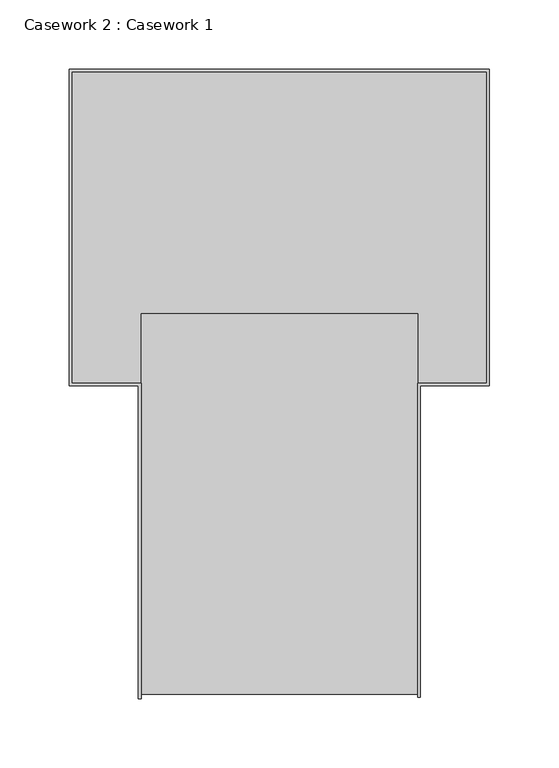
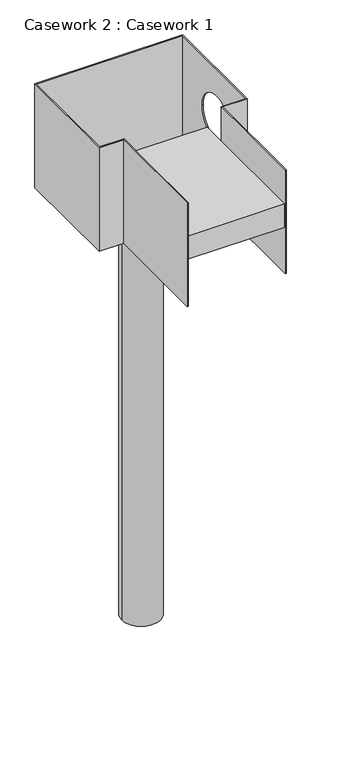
"""IFC4 building model written with IfcOpenShell, lengths in millimetres: furniture geometry, Casework 2 : Casework 1."""

from ifc_helpers import new_model, si_unit, point, frame, frame_2d, origin, place, context, project, spatial, polyline, circle_curve, trimmed, segment, composite_curve, outline, extrude, source, transform, mapped, element, save
from ifc_brep_helpers import plane_surface, revolved_surface, advanced_brep


def casework_2_casework_1_acfe7227(model_context):
    return source(origin(), model_context, "Body", "SolidModel", [
        extrude(outline(polyline([(10485.7899629, -26866.1383926), (10485.7899629, -26591.229083), (10685.7899629, -26591.229083), (10685.7899629, -26866.1383926), (10485.7899629, -26866.1383926)])), frame((0.0, 0.0, 2686.5732141), z_axis=(0.0, 0.0, 1.0), x_axis=(1.0, 0.0, 0.0)), (0.0, 0.0, 1.0), 50.0),
        advanced_brep(
        [(10435.7899629, -26416.229083, 2811.5732141), (10735.7899629, -26416.229083, 2811.5732141), (10735.7899629, -26641.229083, 2811.5732141), (10685.7899629, -26641.229083, 2811.5732141), (10685.7899629, -26722.491931, 2811.5732141), (10685.7899629, -26868.4967336, 2811.5732141), (10687.7899629, -26868.4967336, 2811.5732141), (10687.7899629, -26643.229083, 2811.5732141), (10737.7899629, -26643.229083, 2811.5732141), (10737.7899629, -26414.229083, 2811.5732141), (10433.7899629, -26414.229083, 2811.5732141), (10433.7899629, -26643.229083, 2811.5732141), (10483.7899629, -26643.229083, 2811.5732141), (10483.7899629, -26869.44007, 2811.5732141), (10485.7899629, -26869.44007, 2811.5732141), (10485.7899629, -26722.491931, 2811.5732141), (10485.7899629, -26641.229083, 2811.5732141), (10435.7899629, -26641.229083, 2811.5732141), (10435.7899629, -26416.229083, 2586.5732141), (10435.7899629, -26641.229083, 2586.5732141), (10485.7899629, -26641.229083, 2586.5732141), (10485.7899629, -26869.44007, 2586.5732141), (10483.7899629, -26869.44007, 2586.5732141), (10483.7899629, -26643.229083, 2586.5732141), (10433.7899629, -26643.229083, 2586.5732141), (10433.7899629, -26414.229083, 2586.5732141), (10737.7899629, -26414.229083, 2586.5732141), (10737.7899629, -26643.229083, 2586.5732141), (10687.7899629, -26643.229083, 2586.5732141), (10687.7899629, -26868.4967336, 2586.5732141), (10685.7899629, -26868.4967336, 2586.5732141), (10685.7899629, -26641.229083, 2586.5732141), (10735.7899629, -26641.229083, 2586.5732141), (10735.7899629, -26416.229083, 2586.5732141), (10735.7899629, -26486.1510431, 2703.5791378), (10735.7899629, -26586.1510431, 2703.5791378), (10685.7899629, -26641.229083, 2591.5732141), (10485.7899629, -26641.229083, 2591.5732141), (10485.7899629, -26641.229083, 2686.5732141), (10685.7899629, -26641.229083, 2686.5732141), (10685.7899629, -26658.2535036, 2686.5732141), (10685.7899629, -26658.2535036, 2591.5732141), (10737.7899629, -26586.1510431, 2703.5791378), (10737.7899629, -26486.1510431, 2703.5791378), (10485.7899629, -26658.2535036, 2591.5732141), (10485.7899629, -26658.2535036, 2686.5732141)],
        [
            (0, 1),
            (1, 2),
            (2, 3),
            (3, 4),
            (4, 5),
            (5, 6),
            (6, 7),
            (7, 8),
            (8, 9),
            (9, 10),
            (10, 11),
            (11, 12),
            (12, 13),
            (13, 14),
            (14, 15),
            (15, 16),
            (16, 17),
            (17, 0),
            (18, 19),
            (19, 20),
            (20, 21),
            (21, 22),
            (22, 23),
            (23, 24),
            (24, 25),
            (25, 26),
            (26, 27),
            (27, 28),
            (28, 29),
            (29, 30),
            (30, 31),
            (31, 32),
            (32, 33),
            (33, 18),
            (0, 18),
            (33, 1),
            (32, 2),
            (34, 35, circle_curve(frame((10735.7899629, -26536.1510431, 2703.5791378), z_axis=(1.0, 0.0, 0.0), x_axis=(0.0, 1.0, 0.0)), 50.0)),
            (35, 34, circle_curve(frame((10735.7899629, -26536.1510431, 2703.5791378), z_axis=(1.0, 0.0, 0.0), x_axis=(0.0, 1.0, 0.0)), 50.0)),
            (31, 36),
            (36, 37),
            (37, 20),
            (19, 17),
            (16, 38),
            (38, 39),
            (39, 3),
            (30, 5),
            (39, 40),
            (40, 41),
            (41, 36),
            (7, 28),
            (27, 8),
            (26, 9),
            (42, 43, circle_curve(frame((10737.7899629, -26536.1510431, 2703.5791378), z_axis=(-1.0, 0.0, 0.0), x_axis=(0.0, 1.0, 0.0)), 50.0)),
            (43, 42, circle_curve(frame((10737.7899629, -26536.1510431, 2703.5791378), z_axis=(-1.0, 0.0, 0.0), x_axis=(0.0, 1.0, 0.0)), 50.0)),
            (25, 10),
            (24, 11),
            (23, 12),
            (29, 6),
            (22, 13),
            (21, 14),
            (37, 44),
            (44, 45),
            (45, 38),
            (44, 41),
            (40, 45),
            (42, 35),
            (34, 43),
        ],
        [
            plane_surface(frame((10435.7899629, -26416.229083, 2811.5732141), z_axis=(0.0, 0.0, 1.0), x_axis=(1.0, 0.0, 0.0))),
            plane_surface(frame((10435.7899629, -26416.229083, 2586.5732141), z_axis=(0.0, 0.0, -1.0), x_axis=(-1.0, 0.0, 0.0))),
            plane_surface(frame((10435.7899629, -26416.229083, 2811.5732141), z_axis=(0.0, -1.0, 0.0), x_axis=(0.0, 0.0, -1.0))),
            plane_surface(frame((10735.7899629, -26416.229083, 2811.5732141), z_axis=(-1.0, 0.0, 0.0), x_axis=(0.0, 0.0, -1.0))),
            plane_surface(frame((10735.7899629, -26641.229083, 2811.5732141), z_axis=(0.0, 1.0, 0.0), x_axis=(0.0, 0.0, -1.0))),
            plane_surface(frame((10685.7899629, -26641.229083, 2811.5732141), z_axis=(-1.0, 0.0, 0.0), x_axis=(0.0, 0.0, -1.0))),
            plane_surface(frame((10687.7899629, -26643.229083, 2811.5732141), z_axis=(0.0, -1.0, 0.0), x_axis=(0.0, 0.0, -1.0))),
            plane_surface(frame((10737.7899629, -26643.229083, 2811.5732141), z_axis=(1.0, 0.0, 0.0), x_axis=(0.0, 0.0, -1.0))),
            plane_surface(frame((10737.7899629, -26414.229083, 2811.5732141), z_axis=(0.0, 1.0, 0.0), x_axis=(0.0, 0.0, -1.0))),
            plane_surface(frame((10433.7899629, -26414.229083, 2811.5732141), z_axis=(-1.0, 0.0, 0.0), x_axis=(0.0, 0.0, -1.0))),
            plane_surface(frame((10433.7899629, -26643.229083, 2811.5732141), z_axis=(0.0, -1.0, 0.0), x_axis=(0.0, 0.0, -1.0))),
            plane_surface(frame((10435.7899629, -26641.229083, 2811.5732141), z_axis=(1.0, 0.0, 0.0), x_axis=(0.0, 0.0, -1.0))),
            plane_surface(frame((10685.7899629, -26868.4967336, 2811.5732141), z_axis=(0.0, -1.0, 0.0), x_axis=(0.0, 0.0, -1.0))),
            plane_surface(frame((10687.7899629, -26868.4967336, 2811.5732141), z_axis=(1.0, 0.0, 0.0), x_axis=(0.0, 0.0, -1.0))),
            plane_surface(frame((10483.7899629, -26643.229083, 2811.5732141), z_axis=(-1.0, 0.0, 0.0), x_axis=(0.0, 0.0, -1.0))),
            plane_surface(frame((10483.7899629, -26869.44007, 2811.5732141), z_axis=(0.0, -1.0, 0.0), x_axis=(0.0, 0.0, -1.0))),
            plane_surface(frame((10485.7899629, -26869.44007, 2811.5732141), z_axis=(1.0, 0.0, 0.0), x_axis=(0.0, 0.0, -1.0))),
            plane_surface(frame((10485.7899629, -26658.2535036, 2686.5732141), z_axis=(0.0, -1.0, 0.0), x_axis=(0.0, 0.0, -1.0))),
            plane_surface(frame((10485.7899629, -26641.229083, 2686.5732141), z_axis=(0.0, 0.0, 1.0), x_axis=(0.0, -1.0, 0.0))),
            plane_surface(frame((10685.7899629, -26641.229083, 2591.5732141), z_axis=(0.0, 0.0, -1.0), x_axis=(0.0, -1.0, 0.0))),
            revolved_surface(polyline([(10735.7899629, -26486.1510431, 2703.5791378), (10737.7899629, -26486.1510431, 2703.5791378)]), (10762.3794126, -26536.1510431, 2703.5791378), (-1.0, 0.0, 0.0)),
        ],
        [
            (0, [[1, 2, 3, 4, 5, 6, 7, 8, 9, 10, 11, 12, 13, 14, 15, 16, 17, 18]]),
            (1, [[19, 20, 21, 22, 23, 24, 25, 26, 27, 28, 29, 30, 31, 32, 33, 34]]),
            (2, [[-1, 35, -34, 36]]),
            (3, [[-2, -36, -33, 37], [38, 39]]),
            (4, [[-3, -37, -32, 40, 41, 42, -20, 43, -17, 44, 45, 46]]),
            (5, [[-31, 47, -5, -4, -46, 48, 49, 50, -40]]),
            (6, [[-8, 51, -28, 52]]),
            (7, [[-9, -52, -27, 53], [54, 55]]),
            (8, [[-10, -53, -26, 56]]),
            (9, [[-11, -56, -25, 57]]),
            (10, [[-12, -57, -24, 58]]),
            (11, [[-18, -43, -19, -35]]),
            (12, [[-6, -47, -30, 59]]),
            (13, [[-7, -59, -29, -51]]),
            (14, [[-13, -58, -23, 60]]),
            (15, [[-14, -60, -22, 61]]),
            (16, [[-21, -42, 62, 63, 64, -44, -16, -15, -61]]),
            (17, [[65, -49, 66, -63]]),
            (18, [[-45, -64, -66, -48]]),
            (19, [[-41, -50, -65, -62]]),
            (20, [[67, -38, 68, -54]]),
            (20, [[-67, -55, -68, -39]]),
        ],
    ),
        extrude(outline(composite_curve([segment(trimmed(circle_curve(frame_2d((10585.7899629, -26528.729083)), 40.0), [point((10625.7899629, -26528.729083))], [point((10545.7899629, -26528.729083))], False, "CARTESIAN"), True, "CONTINUOUS"), segment(trimmed(circle_curve(frame_2d((10585.7899629, -26528.729083)), 40.0), [point((10545.7899629, -26528.729083))], [point((10625.7899629, -26528.729083))], False, "CARTESIAN"), True, "CONTINUOUS")], self_intersect=False)), frame((0.0, 0.0, 1677.5969936), z_axis=(0.0, 0.0, 1.0), x_axis=(1.0, 0.0, 0.0)), (0.0, 0.0, 1.0), 908.9762205),
        extrude(outline(polyline([(10435.7899629, -26641.229083), (10435.7899629, -26416.229083), (10735.7899629, -26416.229083), (10735.7899629, -26641.229083), (10685.7899629, -26641.229083), (10685.7899629, -26676.229083), (10485.7899629, -26676.229083), (10485.7899629, -26641.229083), (10435.7899629, -26641.229083)])), frame((0.0, 0.0, 2586.5732141), z_axis=(0.0, 0.0, 1.0), x_axis=(1.0, 0.0, 0.0)), (0.0, 0.0, 1.0), 5.0),
    ])


if __name__ == "__main__":
    model = new_model("IFC4")
    model_context = context("Model", 3, world=origin())
    ifc_project = project(units=[si_unit("LENGTHUNIT", "METRE", prefix="MILLI")], contexts=[model_context])
    site = spatial("IfcSite", under=ifc_project)
    building = spatial("IfcBuilding", under=site)
    placement = place(None, origin())
    casework_2_casework_1_shape = casework_2_casework_1_acfe7227(model_context)
    element("IfcFurniture", 1, ObjectType="Casework 2 : Casework 1", at=placement, inside=building, context=model_context, shape_type="MappedRepresentation", body=[
        mapped(casework_2_casework_1_shape, transform((0.0, 0.0, 0.0), x_axis=(1.0, 0.0, 0.0), y_axis=(0.0, 1.0, 0.0), z_axis=(0.0, 0.0, 1.0))),
    ])
    save(model, "model.ifc")
